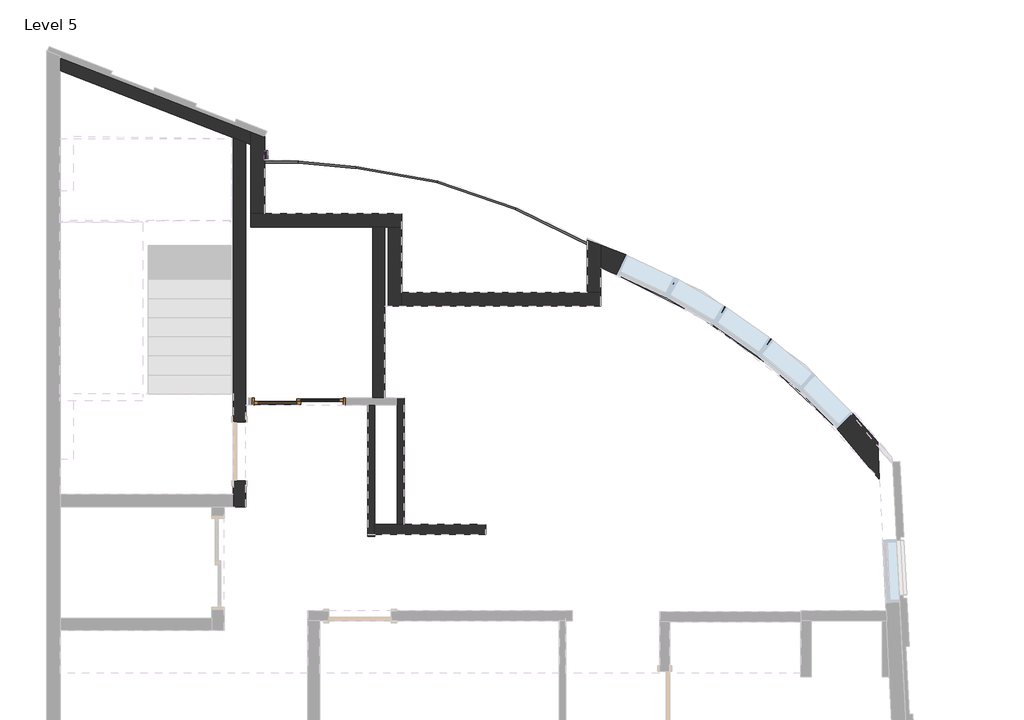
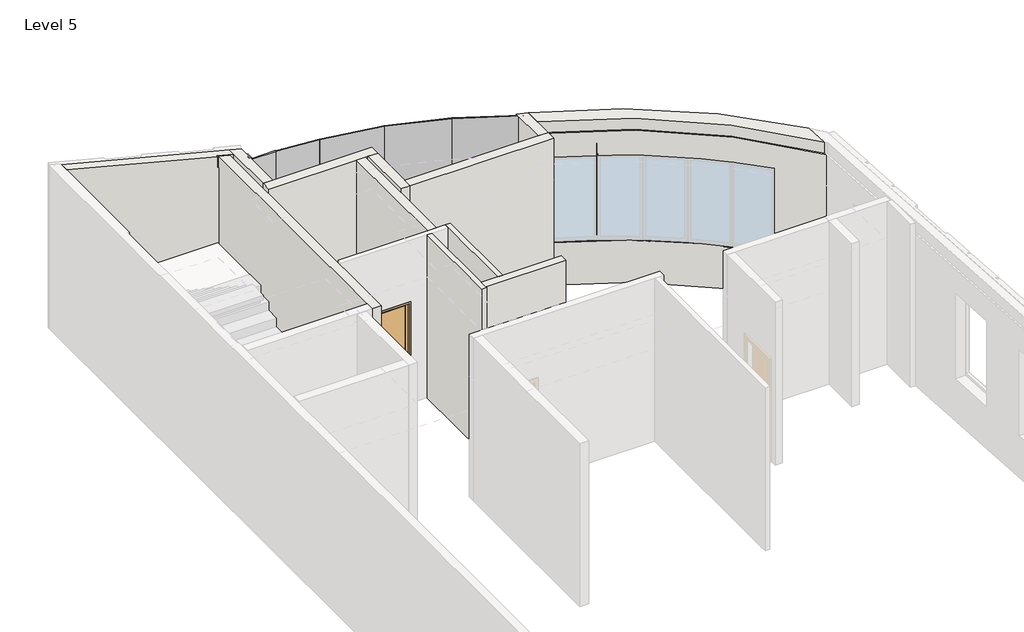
# One storey, part 4 of 5: 13 walls, 5 plates, 2 proxies, 1 door.
"""IFC4 building model written with IfcOpenShell, lengths in millimetres."""

from ifc_helpers import new_model, si_unit, frame, origin, place, context, project, spatial, polyline, circle_curve, outline, extrude, faceted_brep, transform, mapped, element, save
from ifc_brep_helpers import plane_surface, cylinder_surface, revolved_surface, advanced_brep
from components import sliding_door_2_panel_aus_ee5771a8, system_panel_glazed_224d79fb, system_panel_glazed_0fb09b64, system_panel_glazed_2140e779, system_panel_glazed_0c0ff7ba

model = new_model("IFC4")

# Units and contexts
model_context = context("Model", 3, world=origin())
ifc_project = project(units=[si_unit("LENGTHUNIT", "METRE", prefix="MILLI")], contexts=[model_context])

# Site, building, storey
site = spatial("IfcSite", under=ifc_project)
building = spatial("IfcBuilding", under=site)
storey = spatial("IfcBuildingStorey", under=building, Name="Level 5", Elevation=18500.0)

# Proxies
placement = place(None, origin())
element("IfcBuildingElementProxy", 1, Name="Reveal", ObjectType="Reveal", at=placement, inside=storey, context=model_context, shape_type="SweptSolid", body=[
    extrude(outline(polyline([(2938.093022, 13732.1068799), (2988.093022, 13732.1068799), (2988.093022, 13599.3570533), (2938.093022, 13599.3570533), (2938.093022, 13732.1068799)])), frame((0.0, 0.0, 21135.0), z_axis=(0.0, 0.0, 1.0), x_axis=(1.0, 0.0, 0.0)), (0.0, 0.0, 1.0), 50.0),
])
element("IfcBuildingElementProxy", 2, Name="Reveal", ObjectType="Reveal", at=placement, inside=storey, context=model_context, shape_type="SweptSolid", body=[
    extrude(outline(polyline([(2938.093022, 13732.1068799), (2988.093022, 13732.1068799), (2988.093022, 13599.3570533), (2938.093022, 13599.3570533), (2938.093022, 13732.1068799)])), frame((0.0, 0.0, 19375.0), z_axis=(0.0, 0.0, 1.0), x_axis=(1.0, 0.0, 0.0)), (0.0, 0.0, 1.0), 50.0),
])

# Door
sliding_door_2_panel_aus_shape = sliding_door_2_panel_aus_ee5771a8(model_context)
element("IfcDoor", 3, ObjectType="Sliding Door - 2 Panel (AUS) : elavator door", at=placement, inside=storey, context=model_context, shape_type="MappedRepresentation", body=[
    mapped(sliding_door_2_panel_aus_shape, transform((3525.434997, 10056.8748959, 18500.0), x_axis=(-1.0, 0.0, 0.0), y_axis=(0.0, -1.0, 0.0), z_axis=(0.0, 0.0, 1.0))),
])

# Plates
system_panel_glazed_shape = system_panel_glazed_224d79fb(model_context)
element("IfcPlate", 4, ObjectType="System Panel : Glazed", at=placement, inside=storey, context=model_context, shape_type="MappedRepresentation", body=[
    mapped(system_panel_glazed_shape, transform((6054.0124771, 13110.8072352, 18500.0), x_axis=(-0.9455185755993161, 0.32556815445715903, 0.0), y_axis=(-0.32556815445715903, -0.9455185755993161, 0.0), z_axis=(0.0, 0.0, 1.0))),
])
element("IfcPlate", 5, ObjectType="System Panel : Glazed", at=placement, inside=storey, context=model_context, shape_type="MappedRepresentation", body=[
    mapped(system_panel_glazed_shape, transform((4876.5134167, 13415.3291978, 18500.0), x_axis=(-0.9848077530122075, 0.17364817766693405, 0.0), y_axis=(-0.17364817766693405, -0.9848077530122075, 0.0), z_axis=(0.0, 0.0, 1.0))),
])
system_panel_glazed_2_shape = system_panel_glazed_0fb09b64(model_context)
element("IfcPlate", 6, ObjectType="System Panel : Glazed", at=placement, inside=storey, context=model_context, shape_type="MappedRepresentation", body=[
    mapped(system_panel_glazed_2_shape, transform((3856.9795559, 13560.3058198, 18500.0), x_axis=(-0.9956808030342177, 0.09284254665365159, 0.0), y_axis=(-0.09284254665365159, -0.9956808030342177, 0.0), z_axis=(0.0, 0.0, 1.0))),
])
system_panel_glazed_3_shape = system_panel_glazed_2140e779(model_context)
element("IfcPlate", 7, ObjectType="System Panel : Glazed", at=placement, inside=storey, context=model_context, shape_type="MappedRepresentation", body=[
    mapped(system_panel_glazed_3_shape, transform((3189.0685843, 13599.3570533, 18500.0), x_axis=(-1.0, 0.0, 0.0), y_axis=(0.0, -1.0, 0.0), z_axis=(0.0, 0.0, 1.0))),
])
system_panel_glazed_4_shape = system_panel_glazed_0c0ff7ba(model_context)
element("IfcPlate", 8, ObjectType="System Panel : Glazed", at=placement, inside=storey, context=model_context, shape_type="MappedRepresentation", body=[
    mapped(system_panel_glazed_4_shape, transform((7196.5430293, 12636.269013, 18500.0), x_axis=(-0.8987940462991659, 0.43837114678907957, 0.0), y_axis=(-0.43837114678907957, -0.8987940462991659, 0.0), z_axis=(0.0, 0.0, 1.0))),
])

# Walls
element("IfcWall", 9, ObjectType="Generic - 20cm-gypsum-kamposite", at=placement, inside=storey, context=model_context, shape_type="AdvancedBrep", body=[
    advanced_brep(
    [(11908.3121492, 9469.3435074, 22000.0), (7862.3072504, 12351.1222388, 22000.0), (7862.3072504, 12041.0727933, 22000.0), (11933.8152789, 8968.3078963, 22000.0), (7862.3072504, 12351.1222388, 18500.0), (11908.3121492, 9469.3435074, 18500.0), (11936.5482631, 8914.6155682, 18500.0), (7862.3072504, 12008.9189597, 18500.0), (11908.3121492, 9469.3435074, 21245.0), (11544.8906493, 9885.6032931, 21245.0), (11544.8906493, 9885.6032931, 21230.0), (10356.3701317, 10970.353241, 21230.0), (10356.3701317, 10970.353241, 21245.0), (10349.7211648, 10975.4604273, 21245.0), (10349.7211648, 10975.4604273, 21230.0), (9682.5839736, 11443.5981936, 21230.0), (9682.5839736, 11443.5981936, 21245.0), (9675.5092952, 11448.1203824, 21245.0), (9675.5092952, 11448.1203824, 21230.0), (8970.5270255, 11857.0519163, 21230.0), (8970.5270255, 11857.0519163, 21245.0), (8958.907306, 11863.1346618, 21245.0), (8958.907306, 11863.1346618, 21230.0), (8221.1493402, 12209.4555878, 21230.0), (8221.1493402, 12209.4555878, 21245.0), (7862.3072504, 12351.1222388, 21245.0), (7862.3072504, 12351.1222388, 19375.0), (11908.3121492, 9469.3435074, 19375.0), (11908.3121492, 9469.3435074, 19425.0), (11544.8906493, 9885.6032931, 19425.0), (11544.8906493, 9885.6032931, 21195.0), (11908.3121492, 9469.3435074, 21195.0), (8221.1493402, 12209.4555878, 19425.0), (7862.3072504, 12351.1222388, 19425.0), (7862.3072504, 12351.1222388, 21195.0), (8221.1493402, 12209.4555878, 21195.0), (10356.3701317, 10970.353241, 19425.0), (10349.7211648, 10975.4604273, 19425.0), (10349.7211648, 10975.4604273, 21195.0), (10356.3701317, 10970.353241, 21195.0), (9682.5839736, 11443.5981936, 19425.0), (9675.5092952, 11448.1203824, 19425.0), (9675.5092952, 11448.1203824, 21195.0), (9682.5839736, 11443.5981936, 21195.0), (8970.5270255, 11857.0519163, 19425.0), (8958.907306, 11863.1346618, 19425.0), (8958.907306, 11863.1346618, 21195.0), (8970.5270255, 11857.0519163, 21195.0), (11936.5482631, 8914.6155682, 21759.0), (7862.3072504, 12008.9189597, 21759.0), (8085.0423074, 11919.5105106, 19400.0), (8085.0423074, 11919.5105106, 21230.0), (11319.3000133, 9658.2222537, 21230.0), (11319.3000133, 9658.2222537, 19400.0), (11910.4512496, 9427.3186475, 19375.0), (11910.4512496, 9427.3186475, 19425.0), (11910.4512496, 9427.3186475, 21195.0), (11910.4512496, 9427.3186475, 21245.0), (11933.8152789, 8968.3078963, 21759.0), (11527.266896, 9867.8396686, 21230.0), (11527.266896, 9867.8396686, 21195.0), (11527.266896, 9867.8396686, 19425.0), (11527.266896, 9867.8396686, 19400.0), (10335.3479854, 10954.9773917, 21230.0), (10293.8645813, 10895.8599189, 21230.0), (10340.2860207, 10951.1844014, 21230.0), (8210.516289, 12186.8042907, 21230.0), (8948.2742549, 11840.4833647, 21230.0), (8894.6346191, 11726.2163204, 21230.0), (8957.9716481, 11835.4069275, 21230.0), (9662.9539178, 11426.4753937, 21230.0), (9626.6451976, 11363.8805536, 21230.0), (9668.2107942, 11423.1151579, 21230.0), (10293.8645813, 10895.8599189, 19400.0), (10340.2860207, 10951.1844014, 19400.0), (10340.2860207, 10951.1844014, 19425.0), (10340.2860207, 10951.1844014, 21195.0), (10335.3479854, 10954.9773917, 19400.0), (9668.2107942, 11423.1151579, 19400.0), (9626.6451976, 11363.8805536, 19400.0), (9662.9539178, 11426.4753937, 19400.0), (8957.9716481, 11835.4069275, 19400.0), (8894.6346191, 11726.2163204, 19400.0), (8948.2742549, 11840.4833647, 19400.0), (8210.516289, 12186.8042907, 19400.0), (10335.3479854, 10954.9773917, 21195.0), (10335.3479854, 10954.9773917, 19425.0), (9668.2107942, 11423.1151579, 19425.0), (9668.2107942, 11423.1151579, 21195.0), (9662.9539178, 11426.4753937, 21195.0), (9662.9539178, 11426.4753937, 19425.0), (8957.9716481, 11835.4069275, 19425.0), (8957.9716481, 11835.4069275, 21195.0), (8948.2742549, 11840.4833647, 21195.0), (8948.2742549, 11840.4833647, 19425.0), (8210.516289, 12186.8042907, 19425.0), (8210.516289, 12186.8042907, 21195.0), (7862.3072504, 12041.0727933, 21759.0), (7862.3072504, 12324.4469309, 21245.0), (7862.3072504, 12324.4469309, 21195.0), (7862.3072504, 12324.4469309, 19425.0), (7862.3072504, 12324.4469309, 19375.0), (11527.266896, 9867.8396686, 21245.0), (8210.516289, 12186.8042907, 21245.0), (8957.9716481, 11835.4069275, 21245.0), (8948.2742549, 11840.4833647, 21245.0), (9668.2107942, 11423.1151579, 21245.0), (9662.9539178, 11426.4753937, 21245.0), (10340.2860207, 10951.1844014, 21245.0), (10335.3479854, 10954.9773917, 21245.0)],
    [
        (0, 1, circle_curve(frame((4535.6080259, 3399.2748166, 22000.0), z_axis=(0.0, 0.0, 1.0), x_axis=(0.7954529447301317, 0.6060153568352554, 0.0)), 9550.0)),
        (1, 2),
        (2, 3, circle_curve(frame((4535.6080259, 3399.2748166, 22000.0), z_axis=(0.0, 0.0, -1.0), x_axis=(1.0, 0.0, 0.0)), 9260.0)),
        (3, 0),
        (4, 5, circle_curve(frame((4535.6080259, 3399.2748166, 18500.0), z_axis=(0.0, 0.0, -1.0), x_axis=(0.7954529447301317, 0.6060153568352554, 0.0)), 9550.0)),
        (5, 6),
        (6, 7, circle_curve(frame((4535.6080259, 3399.2748166, 18500.0), z_axis=(0.0, 0.0, 1.0), x_axis=(0.7954529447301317, 0.6060153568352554, 0.0)), 9230.0)),
        (7, 4),
        (0, 8),
        (8, 9, circle_curve(frame((4535.6080259, 3399.2748166, 21245.0), z_axis=(0.0, 0.0, 1.0), x_axis=(0.7954529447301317, 0.6060153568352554, 0.0)), 9550.0)),
        (9, 10),
        (10, 11, circle_curve(frame((4535.6080259, 3399.2748166, 21230.0), z_axis=(0.0, 0.0, 1.0), x_axis=(0.7954529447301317, 0.6060153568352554, 0.0)), 9550.0)),
        (11, 12),
        (12, 13, circle_curve(frame((4535.6080259, 3399.2748166, 21245.0), z_axis=(0.0, 0.0, 1.0), x_axis=(0.7954529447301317, 0.6060153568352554, 0.0)), 9550.0)),
        (13, 14),
        (14, 15, circle_curve(frame((4535.6080259, 3399.2748166, 21230.0), z_axis=(0.0, 0.0, 1.0), x_axis=(0.7954529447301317, 0.6060153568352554, 0.0)), 9550.0)),
        (15, 16),
        (16, 17, circle_curve(frame((4535.6080259, 3399.2748166, 21245.0), z_axis=(0.0, 0.0, 1.0), x_axis=(0.7954529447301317, 0.6060153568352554, 0.0)), 9550.0)),
        (17, 18),
        (18, 19, circle_curve(frame((4535.6080259, 3399.2748166, 21230.0), z_axis=(0.0, 0.0, 1.0), x_axis=(0.7954529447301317, 0.6060153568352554, 0.0)), 9550.0)),
        (19, 20),
        (20, 21, circle_curve(frame((4535.6080259, 3399.2748166, 21245.0), z_axis=(0.0, 0.0, 1.0), x_axis=(0.7954529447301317, 0.6060153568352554, 0.0)), 9550.0)),
        (21, 22),
        (22, 23, circle_curve(frame((4535.6080259, 3399.2748166, 21230.0), z_axis=(0.0, 0.0, 1.0), x_axis=(0.7954529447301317, 0.6060153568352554, 0.0)), 9550.0)),
        (23, 24),
        (24, 25, circle_curve(frame((4535.6080259, 3399.2748166, 21245.0), z_axis=(0.0, 0.0, 1.0), x_axis=(0.7954529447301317, 0.6060153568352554, 0.0)), 9550.0)),
        (25, 1),
        (4, 26),
        (26, 27, circle_curve(frame((4535.6080259, 3399.2748166, 19375.0), z_axis=(0.0, 0.0, -1.0), x_axis=(0.7954529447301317, 0.6060153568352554, 0.0)), 9550.0)),
        (27, 5),
        (28, 29, circle_curve(frame((4535.6080259, 3399.2748166, 19425.0), z_axis=(0.0, 0.0, 1.0), x_axis=(0.7954529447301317, 0.6060153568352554, 0.0)), 9550.0)),
        (29, 30),
        (30, 31, circle_curve(frame((4535.6080259, 3399.2748166, 21195.0), z_axis=(0.0, 0.0, -1.0), x_axis=(0.7954529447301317, 0.6060153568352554, 0.0)), 9550.0)),
        (31, 28),
        (32, 33, circle_curve(frame((4535.6080259, 3399.2748166, 19425.0), z_axis=(0.0, 0.0, 1.0), x_axis=(0.7954529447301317, 0.6060153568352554, 0.0)), 9550.0)),
        (33, 34),
        (34, 35, circle_curve(frame((4535.6080259, 3399.2748166, 21195.0), z_axis=(0.0, 0.0, -1.0), x_axis=(0.7954529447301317, 0.6060153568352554, 0.0)), 9550.0)),
        (35, 32),
        (36, 37, circle_curve(frame((4535.6080259, 3399.2748166, 19425.0), z_axis=(0.0, 0.0, 1.0), x_axis=(0.7954529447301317, 0.6060153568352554, 0.0)), 9550.0)),
        (37, 38),
        (38, 39, circle_curve(frame((4535.6080259, 3399.2748166, 21195.0), z_axis=(0.0, 0.0, -1.0), x_axis=(0.7954529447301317, 0.6060153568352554, 0.0)), 9550.0)),
        (39, 36),
        (40, 41, circle_curve(frame((4535.6080259, 3399.2748166, 19425.0), z_axis=(0.0, 0.0, 1.0), x_axis=(0.7954529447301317, 0.6060153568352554, 0.0)), 9550.0)),
        (41, 42),
        (42, 43, circle_curve(frame((4535.6080259, 3399.2748166, 21195.0), z_axis=(0.0, 0.0, -1.0), x_axis=(0.7954529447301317, 0.6060153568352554, 0.0)), 9550.0)),
        (43, 40),
        (44, 45, circle_curve(frame((4535.6080259, 3399.2748166, 19425.0), z_axis=(0.0, 0.0, 1.0), x_axis=(0.7954529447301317, 0.6060153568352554, 0.0)), 9550.0)),
        (45, 46),
        (46, 47, circle_curve(frame((4535.6080259, 3399.2748166, 21195.0), z_axis=(0.0, 0.0, -1.0), x_axis=(0.7954529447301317, 0.6060153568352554, 0.0)), 9550.0)),
        (47, 44),
        (6, 48),
        (48, 49, circle_curve(frame((4535.6080259, 3399.2748166, 21759.0), z_axis=(0.0, 0.0, 1.0), x_axis=(0.7954529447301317, 0.6060153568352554, 0.0)), 9230.0)),
        (49, 7),
        (50, 51),
        (51, 52, circle_curve(frame((4535.6080259, 3399.2748166, 21230.0), z_axis=(0.0, 0.0, -1.0), x_axis=(0.7954529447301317, 0.6060153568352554, 0.0)), 9230.0)),
        (52, 53),
        (53, 50, circle_curve(frame((4535.6080259, 3399.2748166, 19400.0), z_axis=(0.0, 0.0, 1.0), x_axis=(0.7954529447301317, 0.6060153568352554, 0.0)), 9230.0)),
        (27, 54),
        (54, 55),
        (55, 28),
        (31, 56),
        (56, 57),
        (57, 8),
        (3, 58),
        (58, 48),
        (52, 59),
        (59, 60),
        (60, 30),
        (29, 61),
        (61, 62),
        (62, 53),
        (14, 63),
        (63, 64),
        (64, 65),
        (65, 11),
        (10, 59),
        (51, 66),
        (66, 23),
        (22, 67),
        (67, 68),
        (68, 69),
        (69, 19),
        (18, 70),
        (70, 71),
        (71, 72),
        (72, 15),
        (64, 73),
        (73, 74),
        (74, 75),
        (75, 36),
        (39, 76),
        (76, 65),
        (62, 74, circle_curve(frame((4535.6080259, 3399.2748166, 19400.0), z_axis=(0.0, 0.0, 1.0), x_axis=(0.32740306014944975, 0.9448847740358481, 0.0)), 9525.0)),
        (73, 77),
        (77, 78, circle_curve(frame((4535.6080259, 3399.2748166, 19400.0), z_axis=(0.0, 0.0, 1.0), x_axis=(0.32740306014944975, 0.9448847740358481, 0.0)), 9525.0)),
        (78, 79),
        (79, 80),
        (80, 81, circle_curve(frame((4535.6080259, 3399.2748166, 19400.0), z_axis=(0.0, 0.0, 1.0), x_axis=(0.32740306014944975, 0.9448847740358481, 0.0)), 9525.0)),
        (81, 82),
        (82, 83),
        (83, 84, circle_curve(frame((4535.6080259, 3399.2748166, 19400.0), z_axis=(0.0, 0.0, 1.0), x_axis=(0.32740306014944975, 0.9448847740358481, 0.0)), 9525.0)),
        (84, 50),
        (63, 85),
        (85, 38),
        (37, 86),
        (86, 77),
        (71, 79),
        (78, 87),
        (87, 40),
        (43, 88),
        (88, 72),
        (70, 89),
        (89, 42),
        (41, 90),
        (90, 80),
        (68, 82),
        (81, 91),
        (91, 44),
        (47, 92),
        (92, 69),
        (67, 93),
        (93, 46),
        (45, 94),
        (94, 83),
        (84, 95),
        (95, 32),
        (35, 96),
        (96, 66),
        (49, 97),
        (97, 2),
        (25, 98),
        (98, 99),
        (99, 34),
        (33, 100),
        (100, 101),
        (101, 26),
        (55, 61, circle_curve(frame((4535.6080259, 3399.2748166, 19425.0), z_axis=(0.0, 0.0, 1.0), x_axis=(0.32740306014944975, 0.9448847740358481, 0.0)), 9525.0)),
        (95, 100, circle_curve(frame((4535.6080259, 3399.2748166, 19425.0), z_axis=(0.0, 0.0, 1.0), x_axis=(0.32740306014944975, 0.9448847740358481, 0.0)), 9525.0)),
        (75, 86, circle_curve(frame((4535.6080259, 3399.2748166, 19425.0), z_axis=(0.0, 0.0, 1.0), x_axis=(0.32740306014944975, 0.9448847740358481, 0.0)), 9525.0)),
        (87, 90, circle_curve(frame((4535.6080259, 3399.2748166, 19425.0), z_axis=(0.0, 0.0, 1.0), x_axis=(0.32740306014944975, 0.9448847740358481, 0.0)), 9525.0)),
        (91, 94, circle_curve(frame((4535.6080259, 3399.2748166, 19425.0), z_axis=(0.0, 0.0, 1.0), x_axis=(0.32740306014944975, 0.9448847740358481, 0.0)), 9525.0)),
        (101, 54, circle_curve(frame((4535.6080259, 3399.2748166, 19375.0), z_axis=(0.0, 0.0, -1.0), x_axis=(0.32740306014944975, 0.9448847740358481, 0.0)), 9525.0)),
        (57, 102, circle_curve(frame((4535.6080259, 3399.2748166, 21245.0), z_axis=(0.0, 0.0, 1.0), x_axis=(0.7339562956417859, 0.6791966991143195, 0.0)), 9525.0)),
        (102, 9),
        (60, 56, circle_curve(frame((4535.6080259, 3399.2748166, 21195.0), z_axis=(0.0, 0.0, -1.0), x_axis=(0.7339562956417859, 0.6791966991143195, 0.0)), 9525.0)),
        (59, 102),
        (24, 103),
        (103, 98, circle_curve(frame((4535.6080259, 3399.2748166, 21245.0), z_axis=(0.0, 0.0, 1.0), x_axis=(0.32740306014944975, 0.9448847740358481, 0.0)), 9525.0)),
        (99, 96, circle_curve(frame((4535.6080259, 3399.2748166, 21195.0), z_axis=(0.0, 0.0, -1.0), x_axis=(0.32740306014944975, 0.9448847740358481, 0.0)), 9525.0)),
        (103, 66),
        (104, 105, circle_curve(frame((4535.6080259, 3399.2748166, 21245.0), z_axis=(0.0, 0.0, 1.0), x_axis=(0.4631726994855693, 0.8862680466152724, 0.0)), 9525.0)),
        (105, 21),
        (20, 104),
        (93, 92, circle_curve(frame((4535.6080259, 3399.2748166, 21195.0), z_axis=(0.0, 0.0, -1.0), x_axis=(0.4631726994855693, 0.8862680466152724, 0.0)), 9525.0)),
        (104, 69),
        (67, 105),
        (106, 107, circle_curve(frame((4535.6080259, 3399.2748166, 21245.0), z_axis=(0.0, 0.0, 1.0), x_axis=(0.5382095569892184, 0.8428110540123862, 0.0)), 9525.0)),
        (107, 17),
        (16, 106),
        (89, 88, circle_curve(frame((4535.6080259, 3399.2748166, 21195.0), z_axis=(0.0, 0.0, -1.0), x_axis=(0.5382095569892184, 0.8428110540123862, 0.0)), 9525.0)),
        (106, 72),
        (70, 107),
        (108, 109, circle_curve(frame((4535.6080259, 3399.2748166, 21245.0), z_axis=(0.0, 0.0, 1.0), x_axis=(0.6088076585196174, 0.7933178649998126, 0.0)), 9525.0)),
        (109, 13),
        (12, 108),
        (85, 76, circle_curve(frame((4535.6080259, 3399.2748166, 21195.0), z_axis=(0.0, 0.0, -1.0), x_axis=(0.6088076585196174, 0.7933178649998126, 0.0)), 9525.0)),
        (108, 65),
        (63, 109),
        (58, 97, circle_curve(frame((4535.6080259, 3399.2748166, 21759.0), z_axis=(0.0, 0.0, 1.0), x_axis=(1.0, 0.0, 0.0)), 9260.0)),
    ],
    [
        plane_surface(frame((12132.1836481, 9186.7214744, 22000.0), z_axis=(0.0, 0.0, 1.0), x_axis=(-0.6060153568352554, 0.7954529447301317, 0.0))),
        plane_surface(frame((12132.1836481, 9186.7214744, 18500.0), z_axis=(0.0, 0.0, -1.0), x_axis=(0.6060153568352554, -0.7954529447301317, 0.0))),
        cylinder_surface(frame((4535.6080259, 3399.2748166, 18500.0), z_axis=(0.0, 0.0, 1.0), x_axis=(0.7954529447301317, 0.6060153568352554, 0.0)), 9550.0),
        revolved_surface(polyline([(11877.638705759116, 8992.796560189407, 18500.0), (11877.638705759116, 8992.796560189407, 21759.0)]), (4535.6080259, 3399.2748166, 18500.0), (0.0, 0.0, -1.0)),
        plane_surface(frame((11929.5360205, 9052.3783941, 18500.0), z_axis=(0.9987070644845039, 0.05083502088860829, 0.0), x_axis=(0.05083502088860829, -0.9987070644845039, 0.0))),
        plane_surface(frame((10471.5277129, 8803.721596, 19400.0), z_axis=(-0.7098961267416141, 0.7043063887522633, 0.0), x_axis=(0.7043063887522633, 0.7098961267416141, 0.0))),
        plane_surface(frame((10001.1116007, 9279.0246578, 21230.0), z_axis=(0.0, 0.0, -1.0), x_axis=(0.6427769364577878, 0.7660533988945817, 0.0))),
        plane_surface(frame((9376.7780806, 9802.887861, 21230.0), z_axis=(0.7660533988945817, -0.6427769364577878, 0.0), x_axis=(0.6427769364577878, 0.7660533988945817, 0.0))),
        plane_surface(frame((9376.7780806, 9802.887861, 19400.0), z_axis=(0.0, 0.0, 1.0), x_axis=(0.6427769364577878, 0.7660533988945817, 0.0))),
        plane_surface(frame((9474.332262, 9727.9548086, 19400.0), z_axis=(-0.8185732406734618, 0.5744021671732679, 0.0), x_axis=(0.5744021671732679, 0.8185732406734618, 0.0))),
        plane_surface(frame((8807.1950709, 10196.0925748, 21230.0), z_axis=(0.8185732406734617, -0.574402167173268, 0.0), x_axis=(0.574402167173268, 0.8185732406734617, 0.0))),
        plane_surface(frame((8910.8324147, 10129.8467885, 19400.0), z_axis=(-0.8650089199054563, 0.5017564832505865, 0.0), x_axis=(0.5017564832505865, 0.8650089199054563, 0.0))),
        plane_surface(frame((8205.850145, 10538.7783223, 21230.0), z_axis=(0.8650089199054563, -0.5017564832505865, 0.0), x_axis=(0.5017564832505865, 0.8650089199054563, 0.0))),
        plane_surface(frame((8311.308421, 10483.5725268, 19400.0), z_axis=(-0.9052244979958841, 0.42493365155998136, 0.0), x_axis=(0.42493365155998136, 0.9052244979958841, 0.0))),
        plane_surface(frame((7573.5504552, 10829.8934528, 21230.0), z_axis=(0.9052244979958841, -0.42493365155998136, 0.0), x_axis=(0.42493365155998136, 0.9052244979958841, 0.0))),
        plane_surface(frame((7862.3072504, 12316.4556234, 18500.0), z_axis=(-1.0, 0.0, 0.0), x_axis=(0.0, 1.0, 0.0))),
        plane_surface(frame((4535.6080259, 3399.2748166, 19425.0), z_axis=(0.0, 0.0, -1.0), x_axis=(0.32740306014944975, 0.9448847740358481, 0.0))),
        plane_surface(frame((4535.6080259, 3399.2748166, 19375.0), z_axis=(0.0, 0.0, 1.0), x_axis=(0.32740306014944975, 0.9448847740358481, 0.0))),
        cylinder_surface(frame((4535.6080259, 3399.2748166, 19400.0), z_axis=(0.0, 0.0, -1.0), x_axis=(0.32740306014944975, 0.9448847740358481, 0.0)), 9525.0),
        plane_surface(frame((4535.6080259, 3399.2748166, 21245.0), z_axis=(0.0, 0.0, -1.0), x_axis=(0.7339562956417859, 0.6791966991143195, 0.0))),
        plane_surface(frame((4535.6080259, 3399.2748166, 21195.0), z_axis=(0.0, 0.0, 1.0), x_axis=(0.7339562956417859, 0.6791966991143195, 0.0))),
        cylinder_surface(frame((4535.6080259, 3399.2748166, 21220.0), z_axis=(0.0, 0.0, -1.0), x_axis=(0.7339562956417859, 0.6791966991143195, 0.0)), 9525.0),
        plane_surface(frame((4535.6080259, 3399.2748166, 21245.0), z_axis=(0.0, 0.0, -1.0), x_axis=(0.32740306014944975, 0.9448847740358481, 0.0))),
        plane_surface(frame((4535.6080259, 3399.2748166, 21195.0), z_axis=(0.0, 0.0, 1.0), x_axis=(0.32740306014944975, 0.9448847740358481, 0.0))),
        cylinder_surface(frame((4535.6080259, 3399.2748166, 21220.0), z_axis=(0.0, 0.0, -1.0), x_axis=(0.32740306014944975, 0.9448847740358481, 0.0)), 9525.0),
        plane_surface(frame((7573.5504552, 10829.8934528, 21230.0), z_axis=(-0.9052244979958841, 0.42493365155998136, 0.0), x_axis=(0.42493365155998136, 0.9052244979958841, 0.0))),
        plane_surface(frame((4535.6080259, 3399.2748166, 21245.0), z_axis=(0.0, 0.0, -1.0), x_axis=(0.4631726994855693, 0.8862680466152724, 0.0))),
        plane_surface(frame((4535.6080259, 3399.2748166, 21195.0), z_axis=(0.0, 0.0, 1.0), x_axis=(0.4631726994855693, 0.8862680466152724, 0.0))),
        cylinder_surface(frame((4535.6080259, 3399.2748166, 21220.0), z_axis=(0.0, 0.0, -1.0), x_axis=(0.4631726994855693, 0.8862680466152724, 0.0)), 9525.0),
        plane_surface(frame((8311.308421, 10483.5725268, 19400.0), z_axis=(0.9052244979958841, -0.42493365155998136, 0.0), x_axis=(0.42493365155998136, 0.9052244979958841, 0.0))),
        plane_surface(frame((8205.850145, 10538.7783223, 21230.0), z_axis=(-0.8650089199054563, 0.5017564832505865, 0.0), x_axis=(0.5017564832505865, 0.8650089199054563, 0.0))),
        plane_surface(frame((4535.6080259, 3399.2748166, 21245.0), z_axis=(0.0, 0.0, -1.0), x_axis=(0.5382095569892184, 0.8428110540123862, 0.0))),
        plane_surface(frame((4535.6080259, 3399.2748166, 21195.0), z_axis=(0.0, 0.0, 1.0), x_axis=(0.5382095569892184, 0.8428110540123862, 0.0))),
        cylinder_surface(frame((4535.6080259, 3399.2748166, 21220.0), z_axis=(0.0, 0.0, -1.0), x_axis=(0.5382095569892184, 0.8428110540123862, 0.0)), 9525.0),
        plane_surface(frame((8910.8324147, 10129.8467885, 19400.0), z_axis=(0.8650089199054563, -0.5017564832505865, 0.0), x_axis=(0.5017564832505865, 0.8650089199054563, 0.0))),
        plane_surface(frame((8807.1950709, 10196.0925748, 21230.0), z_axis=(-0.8185732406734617, 0.574402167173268, 0.0), x_axis=(0.574402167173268, 0.8185732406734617, 0.0))),
        plane_surface(frame((4535.6080259, 3399.2748166, 21245.0), z_axis=(0.0, 0.0, -1.0), x_axis=(0.6088076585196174, 0.7933178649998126, 0.0))),
        plane_surface(frame((4535.6080259, 3399.2748166, 21195.0), z_axis=(0.0, 0.0, 1.0), x_axis=(0.6088076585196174, 0.7933178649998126, 0.0))),
        cylinder_surface(frame((4535.6080259, 3399.2748166, 21220.0), z_axis=(0.0, 0.0, -1.0), x_axis=(0.6088076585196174, 0.7933178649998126, 0.0)), 9525.0),
        plane_surface(frame((9474.332262, 9727.9548086, 19400.0), z_axis=(0.8185732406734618, -0.5744021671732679, 0.0), x_axis=(0.5744021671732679, 0.8185732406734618, 0.0))),
        plane_surface(frame((9376.7780806, 9802.887861, 21230.0), z_axis=(-0.7660533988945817, 0.6427769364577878, 0.0), x_axis=(0.6427769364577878, 0.7660533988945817, 0.0))),
        plane_surface(frame((10471.5277129, 8803.721596, 19400.0), z_axis=(0.7098961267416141, -0.7043063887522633, 0.0), x_axis=(0.7043063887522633, 0.7098961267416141, 0.0))),
        plane_surface(frame((-80.0421304, 14944.8648867, 21759.0), z_axis=(0.0, 0.0, 1.0), x_axis=(0.9323005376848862, -0.36168454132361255, 0.0))),
        revolved_surface(polyline([(13795.608025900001, 3399.2748166, 21759.0), (13795.608025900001, 3399.2748166, 22000.0)]), (4535.6080259, 3399.2748166, 22000.0), (0.0, 0.0, -1.0)),
    ],
    [
        (0, [[1, 2, 3, 4]]),
        (1, [[5, 6, 7, 8]]),
        (2, [[-1, 9, 10, 11, 12, 13, 14, 15, 16, 17, 18, 19, 20, 21, 22, 23, 24, 25, 26, 27]]),
        (2, [[-5, 28, 29, 30]]),
        (2, [[31, 32, 33, 34]]),
        (2, [[35, 36, 37, 38]]),
        (2, [[39, 40, 41, 42]]),
        (2, [[43, 44, 45, 46]]),
        (2, [[47, 48, 49, 50]]),
        (3, [[-7, 51, 52, 53], [54, 55, 56, 57]]),
        (4, [[-6, -30, 58, 59, 60, -34, 61, 62, 63, -9, -4, 64, 65, -51]]),
        (5, [[-56, 66, 67, 68, -32, 69, 70, 71]]),
        (6, [[-16, 72, 73, 74, 75, -12, 76, -66, -55, 77, 78, -24, 79, 80, 81, 82, -20, 83, 84, 85, 86]]),
        (7, [[87, 88, 89, 90, -42, 91, 92, -74]]),
        (8, [[-57, -71, 93, -88, 94, 95, 96, 97, 98, 99, 100, 101, 102]]),
        (9, [[-87, -73, 103, 104, -40, 105, 106, -94]]),
        (10, [[107, -96, 108, 109, -46, 110, 111, -85]]),
        (11, [[-107, -84, 112, 113, -44, 114, 115, -97]]),
        (12, [[116, -99, 117, 118, -50, 119, 120, -81]]),
        (13, [[-116, -80, 121, 122, -48, 123, 124, -100]]),
        (14, [[-54, -102, 125, 126, -38, 127, 128, -77]]),
        (15, [[-8, -53, 129, 130, -2, -27, 131, 132, 133, -36, 134, 135, 136, -28]]),
        (16, [[137, -69, -31, -60]]),
        (16, [[-134, -35, -126, 138]]),
        (16, [[139, -105, -39, -90]]),
        (16, [[140, -114, -43, -109]]),
        (16, [[141, -123, -47, -118]]),
        (17, [[142, -58, -29, -136]]),
        (18, [[-137, -59, -142, -135, -138, -125, -101, -124, -141, -117, -98, -115, -140, -108, -95, -106, -139, -89, -93, -70]]),
        (19, [[143, 144, -10, -63]]),
        (20, [[145, -61, -33, -68]]),
        (21, [[-143, -62, -145, -67, 146]]),
        (22, [[147, 148, -131, -26]]),
        (23, [[149, -127, -37, -133]]),
        (24, [[150, -128, -149, -132, -148]]),
        (25, [[-150, -147, -25, -78]]),
        (26, [[151, 152, -22, 153]]),
        (27, [[154, -119, -49, -122]]),
        (28, [[-151, 155, -120, -154, -121, 156]]),
        (29, [[-156, -79, -23, -152]]),
        (30, [[-155, -153, -21, -82]]),
        (31, [[157, 158, -18, 159]]),
        (32, [[160, -110, -45, -113]]),
        (33, [[-157, 161, -111, -160, -112, 162]]),
        (34, [[-162, -83, -19, -158]]),
        (35, [[-161, -159, -17, -86]]),
        (36, [[163, 164, -14, 165]]),
        (37, [[166, -91, -41, -104]]),
        (38, [[-163, 167, -92, -166, -103, 168]]),
        (39, [[-168, -72, -15, -164]]),
        (40, [[-167, -165, -13, -75]]),
        (41, [[-146, -76, -11, -144]]),
        (42, [[169, -129, -52, -65]]),
        (43, [[-169, -64, -3, -130]]),
    ],
),
])
element("IfcWall", 10, ObjectType="Generic - 15cm-gypsu-2boith", at=placement, inside=storey, context=model_context, shape_type="Brep", body=[
    faceted_brep([(4549.2779066, 8112.262158, 18500.0), (6174.9402277, 8112.262158, 18500.0), (6174.9402277, 8112.262158, 22000.0), (4549.2779066, 8112.262158, 22000.0), (4549.2779066, 8262.262158, 18500.0), (4549.2779066, 8262.262158, 22000.0), (4879.9402277, 8262.262158, 22000.0), (4979.9402277, 8262.262158, 22000.0), (6174.9402277, 8262.262158, 22000.0), (6174.9402277, 8262.262158, 18500.0), (4979.9402277, 8262.262158, 18500.0), (4879.9402277, 8262.262158, 18500.0)], [[[0, 1, 2, 3]], [[4, 5, 6, 7, 8, 9, 10, 11]], [[1, 0, 4, 11, 10, 9]], [[2, 1, 9, 8]], [[3, 2, 8, 7, 6, 5]], [[0, 3, 5, 4]]]),
])
element("IfcWall", 11, ObjectType="Generic - 10cm-gypsu-2boith", at=placement, inside=storey, context=model_context, shape_type="Brep", body=[
    faceted_brep([(4549.2779066, 8082.262158, 18500.0), (4549.2779066, 8112.262158, 18500.0), (4549.2779066, 8262.262158, 18500.0), (4549.2779066, 10006.8748959, 18500.0), (4549.2779066, 10006.8748959, 22000.0), (4549.2779066, 8262.262158, 22000.0), (4549.2779066, 8112.262158, 22000.0), (4549.2779066, 8082.262158, 22000.0), (4449.2779066, 8082.262158, 18500.0), (4449.2779066, 8082.262158, 22000.0), (4449.2779066, 10006.8748959, 22000.0), (4449.2779066, 10006.8748959, 18500.0)], [[[0, 1, 2, 3, 4, 5, 6, 7]], [[8, 9, 10, 11]], [[3, 2, 1, 0, 8, 11]], [[7, 6, 5, 4, 10, 9]], [[0, 7, 9, 8]], [[4, 3, 11, 10]]]),
])
element("IfcWall", 12, ObjectType="Generic - 10cm-gypsu-2boith", at=placement, inside=storey, context=model_context, shape_type="Brep", body=[
    faceted_brep([(4879.9402277, 10106.8748959, 18500.0), (4879.9402277, 10006.8748959, 18500.0), (4879.9402277, 8262.262158, 18500.0), (4879.9402277, 8262.262158, 22000.0), (4879.9402277, 10006.8748959, 22000.0), (4879.9402277, 10106.8748959, 22000.0), (4979.9402277, 10106.8748959, 18500.0), (4979.9402277, 10106.8748959, 22000.0), (4979.9402277, 8262.262158, 22000.0), (4979.9402277, 8262.262158, 18500.0)], [[[0, 1, 2, 3, 4, 5]], [[6, 7, 8, 9]], [[2, 1, 0, 6, 9]], [[5, 4, 3, 8, 7]], [[3, 2, 9, 8]], [[0, 5, 7, 6]]]),
])
element("IfcWall", 13, ObjectType="Generic - 18cm-gypsu-2boith 2", at=placement, inside=storey, context=model_context, shape_type="Brep", body=[
    faceted_brep([(2661.8607589, 8516.8748746, 18500.0), (2661.8607589, 8896.8748746, 18500.0), (2661.8607589, 8896.8748746, 20532.0), (2661.8607589, 9760.8748746, 20532.0), (2661.8607589, 9760.8748746, 18500.0), (2661.8607589, 13848.9694672, 18500.0), (2661.8607589, 13848.9694672, 22000.0), (2661.8607589, 8516.8748746, 22000.0), (2481.8607589, 8896.8748746, 20532.0), (2481.8607589, 8896.8748746, 18500.0), (2481.8607589, 8696.8748746, 18500.0), (2481.8607589, 8516.8748746, 18500.0), (2481.8607589, 8516.8748746, 22000.0), (2481.8607589, 8696.8748746, 22000.0), (2481.8607589, 13918.8001868, 22000.0), (2481.8607589, 13918.8001868, 18500.0), (2481.8607589, 9760.8748746, 18500.0), (2481.8607589, 9760.8748746, 20532.0)], [[[0, 1, 2, 3, 4, 5, 6, 7]], [[8, 9, 10, 11, 12, 13, 14, 15, 16, 17]], [[16, 15, 5, 4]], [[11, 10, 9, 1, 0]], [[7, 6, 14, 13, 12]], [[6, 5, 15, 14]], [[0, 7, 12, 11]], [[2, 1, 9, 8]], [[3, 2, 8, 17]], [[4, 3, 17, 16]]]),
])
element("IfcWall", 14, ObjectType="Generic - 18cm-gypsu-2boith 2", at=placement, inside=storey, context=model_context, shape_type="SweptSolid", body=[
    extrude(outline(polyline([(4519.9587688, 10106.8748959), (4519.9587688, 12611.9409286), (4699.9587688, 12611.9409286), (4699.9587688, 10106.8748959), (4519.9587688, 10106.8748959)])), frame((0.0, 0.0, 18500.0), z_axis=(0.0, 0.0, 1.0), x_axis=(1.0, 0.0, 0.0)), (0.0, 0.0, 1.0), 3500.0),
])
element("IfcWall", 15, ObjectType="kamposite5cm", at=placement, inside=storey, context=model_context, shape_type="Brep", body=[
    faceted_brep([(2913.093022, 13751.504302, 18500.0), (2913.093022, 13599.3570533, 18500.0), (2913.093022, 13599.3570533, 22000.0), (2913.093022, 13751.504302, 22000.0), (2963.093022, 13599.3570533, 18500.0), (2963.093022, 13732.1068799, 18500.0), (2963.093022, 13732.1068799, 19375.0), (2963.093022, 13599.3570533, 19375.0), (2963.093022, 13732.1068799, 22000.0), (2963.093022, 13599.3570533, 22000.0), (2963.093022, 13599.3570533, 21185.0), (2963.093022, 13732.1068799, 21185.0), (2963.093022, 13732.1068799, 21135.0), (2963.093022, 13599.3570533, 21135.0), (2963.093022, 13599.3570533, 19425.0), (2963.093022, 13732.1068799, 19425.0), (2938.093022, 13599.3570533, 19375.0), (2938.093022, 13599.3570533, 19425.0), (2938.093022, 13599.3570533, 21135.0), (2938.093022, 13599.3570533, 21185.0), (2938.093022, 13732.1068799, 21185.0), (2938.093022, 13732.1068799, 21135.0), (2938.093022, 13732.1068799, 19425.0), (2938.093022, 13732.1068799, 19375.0)], [[[0, 1, 2, 3]], [[4, 5, 6, 7]], [[8, 9, 10, 11]], [[12, 13, 14, 15]], [[1, 0, 5, 4]], [[2, 1, 4, 7, 16, 17, 14, 13, 18, 19, 10, 9]], [[3, 2, 9, 8]], [[20, 21, 12, 11]], [[19, 20, 11, 10]], [[21, 18, 13, 12]], [[21, 20, 19, 18]], [[22, 23, 6, 15]], [[17, 22, 15, 14]], [[23, 16, 7, 6]], [[23, 22, 17, 16]], [[0, 3, 8, 11, 12, 15, 6, 5]]]),
])
element("IfcWall", 16, ObjectType="Generic - 20cm-gypsum", at=placement, inside=storey, context=model_context, shape_type="Brep", body=[
    faceted_brep([(4949.6116933, 11454.5991251, 18500.0), (7862.3072504, 11454.5991251, 18500.0), (7862.3072504, 11454.5991251, 22000.0), (4949.6116933, 11454.5991251, 22000.0), (4949.6116933, 11654.5991251, 18500.0), (4949.6116933, 11654.5991251, 22000.0), (7662.3072504, 11654.5991251, 22000.0), (7862.3072504, 11654.5991251, 22000.0), (7862.3072504, 11654.5991251, 18500.0), (7662.3072504, 11654.5991251, 18500.0)], [[[0, 1, 2, 3]], [[4, 5, 6, 7, 8, 9]], [[1, 0, 4, 9, 8]], [[3, 2, 7, 6, 5]], [[2, 1, 8, 7]], [[0, 3, 5, 4]]]),
])
element("IfcWall", 17, ObjectType="Generic - 20cm-gypsum", at=placement, inside=storey, context=model_context, shape_type="AdvancedBrep", body=[
    advanced_brep(
    [(7862.3072504, 11654.5991251, 18500.0), (7862.3072504, 12008.9189597, 18500.0), (7862.3072504, 12351.1222388, 18500.0), (7862.3072504, 12351.1222388, 19375.0), (7862.3072504, 12324.4469309, 19375.0), (7862.3072504, 12324.4469309, 19425.0), (7862.3072504, 12351.1222388, 19425.0), (7862.3072504, 12351.1222388, 21195.0), (7862.3072504, 12324.4469309, 21195.0), (7862.3072504, 12324.4469309, 21245.0), (7862.3072504, 12351.1222388, 21245.0), (7862.3072504, 12351.1222388, 22000.0), (7862.3072504, 12041.0727933, 22000.0), (7862.3072504, 11654.5991251, 22000.0), (7662.3072504, 12422.9244086, 18500.0), (7662.3072504, 11654.5991251, 18500.0), (7662.3072504, 11654.5991251, 22000.0), (7662.3072504, 12422.9244086, 22000.0), (7662.3072504, 12422.9244086, 21245.0), (7662.3072504, 12396.4619859, 21245.0), (7662.3072504, 12396.4619859, 21195.0), (7662.3072504, 12422.9244086, 21195.0), (7662.3072504, 12422.9244086, 19425.0), (7662.3072504, 12396.4619859, 19425.0), (7662.3072504, 12396.4619859, 19375.0), (7662.3072504, 12422.9244086, 19375.0)],
    [
        (0, 1),
        (1, 2),
        (2, 3),
        (3, 4),
        (4, 5),
        (5, 6),
        (6, 7),
        (7, 8),
        (8, 9),
        (9, 10),
        (10, 11),
        (11, 12),
        (12, 13),
        (13, 0),
        (14, 15),
        (15, 16),
        (16, 17),
        (17, 18),
        (18, 19),
        (19, 20),
        (20, 21),
        (21, 22),
        (22, 23),
        (23, 24),
        (24, 25),
        (25, 14),
        (0, 15),
        (14, 2, circle_curve(frame((4535.6080259, 3399.2748166, 18500.0), z_axis=(0.0, 0.0, -1.0), x_axis=(0.7954529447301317, 0.6060153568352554, 0.0)), 9550.0)),
        (11, 17, circle_curve(frame((4535.6080259, 3399.2748166, 22000.0), z_axis=(0.0, 0.0, 1.0), x_axis=(0.7954529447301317, 0.6060153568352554, 0.0)), 9550.0)),
        (16, 13),
        (25, 3, circle_curve(frame((4535.6080259, 3399.2748166, 19375.0), z_axis=(0.0, 0.0, -1.0), x_axis=(0.7954529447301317, 0.6060153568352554, 0.0)), 9550.0)),
        (10, 18, circle_curve(frame((4535.6080259, 3399.2748166, 21245.0), z_axis=(0.0, 0.0, 1.0), x_axis=(0.7954529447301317, 0.6060153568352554, 0.0)), 9550.0)),
        (6, 22, circle_curve(frame((4535.6080259, 3399.2748166, 19425.0), z_axis=(0.0, 0.0, 1.0), x_axis=(0.7954529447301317, 0.6060153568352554, 0.0)), 9550.0)),
        (21, 7, circle_curve(frame((4535.6080259, 3399.2748166, 21195.0), z_axis=(0.0, 0.0, -1.0), x_axis=(0.7954529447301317, 0.6060153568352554, 0.0)), 9550.0)),
        (5, 23, circle_curve(frame((4535.6080259, 3399.2748166, 19425.0), z_axis=(0.0, 0.0, 1.0), x_axis=(0.32740306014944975, 0.9448847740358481, 0.0)), 9525.0)),
        (24, 4, circle_curve(frame((4535.6080259, 3399.2748166, 19375.0), z_axis=(0.0, 0.0, -1.0), x_axis=(0.32740306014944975, 0.9448847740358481, 0.0)), 9525.0)),
        (9, 19, circle_curve(frame((4535.6080259, 3399.2748166, 21245.0), z_axis=(0.0, 0.0, 1.0), x_axis=(0.32740306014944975, 0.9448847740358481, 0.0)), 9525.0)),
        (20, 8, circle_curve(frame((4535.6080259, 3399.2748166, 21195.0), z_axis=(0.0, 0.0, -1.0), x_axis=(0.32740306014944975, 0.9448847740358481, 0.0)), 9525.0)),
    ],
    [
        plane_surface(frame((7862.3072504, 12316.4556234, 18500.0), z_axis=(1.0, 0.0, 0.0), x_axis=(0.0, 1.0, 0.0))),
        plane_surface(frame((7662.3072504, 12316.4556234, 18500.0), z_axis=(-1.0, 0.0, 0.0), x_axis=(0.0, -1.0, 0.0))),
        plane_surface(frame((7862.3072504, 11554.5991251, 18500.0), z_axis=(0.0, 0.0, -1.0), x_axis=(-1.0, 0.0, 0.0))),
        plane_surface(frame((7862.3072504, 12217.4669281, 22000.0), z_axis=(0.0, 0.0, 1.0), x_axis=(-1.0, 0.0, 0.0))),
        plane_surface(frame((7749.728271, 11654.5991251, 18500.0), z_axis=(0.0, -1.0, 0.0), x_axis=(-1.0, 0.0, 0.0))),
        cylinder_surface(frame((4535.6080259, 3399.2748166, 18500.0), z_axis=(0.0, 0.0, 1.0), x_axis=(0.7954529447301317, 0.6060153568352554, 0.0)), 9550.0),
        plane_surface(frame((4535.6080259, 3399.2748166, 19425.0), z_axis=(0.0, 0.0, -1.0), x_axis=(0.32740306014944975, 0.9448847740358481, 0.0))),
        plane_surface(frame((4535.6080259, 3399.2748166, 19375.0), z_axis=(0.0, 0.0, 1.0), x_axis=(0.32740306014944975, 0.9448847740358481, 0.0))),
        cylinder_surface(frame((4535.6080259, 3399.2748166, 19400.0), z_axis=(0.0, 0.0, -1.0), x_axis=(0.32740306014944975, 0.9448847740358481, 0.0)), 9525.0),
        plane_surface(frame((4535.6080259, 3399.2748166, 21245.0), z_axis=(0.0, 0.0, -1.0), x_axis=(0.32740306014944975, 0.9448847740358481, 0.0))),
        plane_surface(frame((4535.6080259, 3399.2748166, 21195.0), z_axis=(0.0, 0.0, 1.0), x_axis=(0.32740306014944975, 0.9448847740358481, 0.0))),
        cylinder_surface(frame((4535.6080259, 3399.2748166, 21220.0), z_axis=(0.0, 0.0, -1.0), x_axis=(0.32740306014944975, 0.9448847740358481, 0.0)), 9525.0),
    ],
    [
        (0, [[1, 2, 3, 4, 5, 6, 7, 8, 9, 10, 11, 12, 13, 14]]),
        (1, [[15, 16, 17, 18, 19, 20, 21, 22, 23, 24, 25, 26]]),
        (2, [[-2, -1, 27, -15, 28]]),
        (3, [[-13, -12, 29, -17, 30]]),
        (4, [[-14, -30, -16, -27]]),
        (5, [[-28, -26, 31, -3]]),
        (5, [[-29, -11, 32, -18]]),
        (5, [[33, -22, 34, -7]]),
        (6, [[35, -23, -33, -6]]),
        (7, [[36, -4, -31, -25]]),
        (8, [[-35, -5, -36, -24]]),
        (9, [[37, -19, -32, -10]]),
        (10, [[38, -8, -34, -21]]),
        (11, [[-37, -9, -38, -20]]),
    ],
),
])
element("IfcWall", 18, ObjectType="Generic - 20cm-gypsum", at=placement, inside=storey, context=model_context, shape_type="Brep", body=[
    faceted_brep([(-50.0421304, 14901.0479686, 18500.0), (2481.8607589, 13918.8001868, 18500.0), (2661.8607589, 13848.9694672, 18500.0), (2739.9587442, 13818.6714754, 18500.0), (2739.9587442, 13818.6714754, 21759.0), (2454.9743495, 13929.2307274, 21759.0), (2454.9743495, 13929.2307274, 22000.0), (-50.0421304, 14901.0479686, 22000.0), (2739.9587442, 14033.1945738, 18500.0), (-50.0421304, 15115.5710671, 18500.0), (-50.0421304, 15115.5710671, 22000.0), (2739.9587442, 14033.1945738, 22000.0), (-50.0421304, 14933.2264334, 22000.0), (2454.9743495, 13961.4091922, 22000.0), (2739.9587442, 13850.8499402, 22000.0), (2739.9587442, 13850.8499402, 21759.0), (2454.9743495, 13961.4091922, 21759.0)], [[[0, 1, 2, 3, 4, 5, 6, 7]], [[8, 9, 10, 11]], [[3, 2, 1, 0, 9, 8]], [[11, 10, 12, 7, 6, 13, 14]], [[0, 7, 12, 10, 9]], [[3, 8, 11, 14, 15, 4]], [[16, 5, 4, 15]], [[13, 16, 15, 14]], [[16, 13, 6, 5]]]),
])
element("IfcWall", 19, ObjectType="Generic - 20cm-gypsum", at=placement, inside=storey, context=model_context, shape_type="Brep", body=[
    faceted_brep([(2739.9587442, 14033.1945738, 18500.0), (2739.9587442, 13818.6714754, 18500.0), (2739.9587442, 12811.9409286, 18500.0), (2739.9587442, 12811.9409286, 22000.0), (2739.9587442, 13850.8499402, 22000.0), (2739.9587442, 14033.1945738, 22000.0), (2939.9587442, 12811.9409286, 18500.0), (2939.9587442, 13955.6048854, 18500.0), (2939.9587442, 13955.6048854, 22000.0), (2939.9587442, 12811.9409286, 22000.0), (2939.9587442, 13732.1068799, 21185.0), (2939.9587442, 13732.1068799, 21135.0), (2939.9587442, 13599.3570533, 21135.0), (2939.9587442, 13599.3570533, 21185.0), (2939.9587442, 13732.1068799, 19425.0), (2939.9587442, 13732.1068799, 19375.0), (2939.9587442, 13599.3570533, 19375.0), (2939.9587442, 13599.3570533, 19425.0), (2938.093022, 13732.1068799, 21185.0), (2938.093022, 13732.1068799, 21135.0), (2938.093022, 13599.3570533, 21135.0), (2938.093022, 13599.3570533, 21185.0), (2938.093022, 13732.1068799, 19425.0), (2938.093022, 13732.1068799, 19375.0), (2938.093022, 13599.3570533, 19375.0), (2938.093022, 13599.3570533, 19425.0)], [[[0, 1, 2, 3, 4, 5]], [[6, 7, 8, 9], [10, 11, 12, 13], [14, 15, 16, 17]], [[2, 1, 0, 7, 6]], [[5, 4, 3, 9, 8]], [[0, 5, 8, 7]], [[3, 2, 6, 9]], [[18, 19, 11, 10]], [[20, 21, 13, 12]], [[21, 18, 10, 13]], [[19, 20, 12, 11]], [[19, 18, 21, 20]], [[22, 23, 15, 14]], [[24, 25, 17, 16]], [[25, 22, 14, 17]], [[23, 24, 16, 15]], [[23, 22, 25, 24]]]),
])
element("IfcWall", 20, ObjectType="Generic - 20cm-gypsum", at=placement, inside=storey, context=model_context, shape_type="Brep", body=[
    faceted_brep([(2739.9587442, 12611.9409286, 18500.0), (4519.9587688, 12611.9409286, 18500.0), (4699.9587688, 12611.9409286, 18500.0), (4749.6116933, 12611.9409286, 18500.0), (4949.6116933, 12611.9409286, 18500.0), (4950.0008706, 12611.9409286, 18500.0), (4950.0008706, 12611.9409286, 22000.0), (4949.6116933, 12611.9409286, 22000.0), (4749.6116933, 12611.9409286, 22000.0), (4699.9587688, 12611.9409286, 22000.0), (4519.9587688, 12611.9409286, 22000.0), (2739.9587442, 12611.9409286, 22000.0), (2739.9587442, 12811.9409286, 18500.0), (2739.9587442, 12811.9409286, 22000.0), (2939.9587442, 12811.9409286, 22000.0), (4950.0008706, 12811.9409286, 22000.0), (4950.0008706, 12811.9409286, 18500.0), (2939.9587442, 12811.9409286, 18500.0)], [[[0, 1, 2, 3, 4, 5, 6, 7, 8, 9, 10, 11]], [[12, 13, 14, 15, 16, 17]], [[5, 4, 3, 2, 1, 0, 12, 17, 16]], [[6, 5, 16, 15]], [[11, 10, 9, 8, 7, 6, 15, 14, 13]], [[0, 11, 13, 12]]]),
])
element("IfcWall", 21, ObjectType="Generic - 20cm-gypsum", at=placement, inside=storey, context=model_context, shape_type="Brep", body=[
    faceted_brep([(4749.6116933, 12611.9409286, 18500.0), (4749.6116933, 11454.5991251, 18500.0), (4749.6116933, 11454.5991251, 22000.0), (4749.6116933, 12611.9409286, 22000.0), (4949.6116933, 12611.9409286, 18500.0), (4949.6116933, 12611.9409286, 22000.0), (4949.6116933, 11654.5991251, 22000.0), (4949.6116933, 11454.5991251, 22000.0), (4949.6116933, 11454.5991251, 18500.0), (4949.6116933, 11654.5991251, 18500.0)], [[[0, 1, 2, 3]], [[4, 5, 6, 7, 8, 9]], [[1, 0, 4, 9, 8]], [[3, 2, 7, 6, 5]], [[0, 3, 5, 4]], [[2, 1, 8, 7]]]),
])

save(model, "model.ifc")
